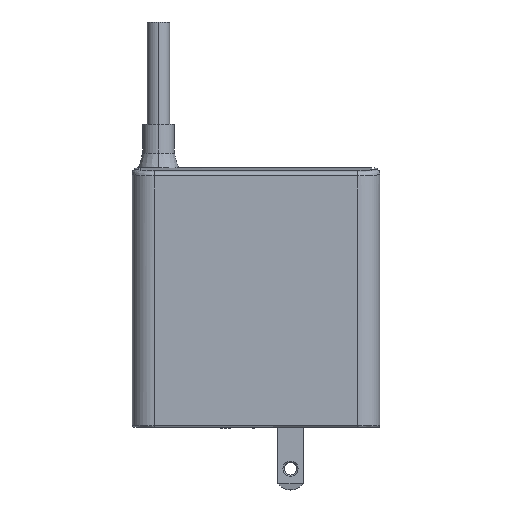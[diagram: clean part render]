
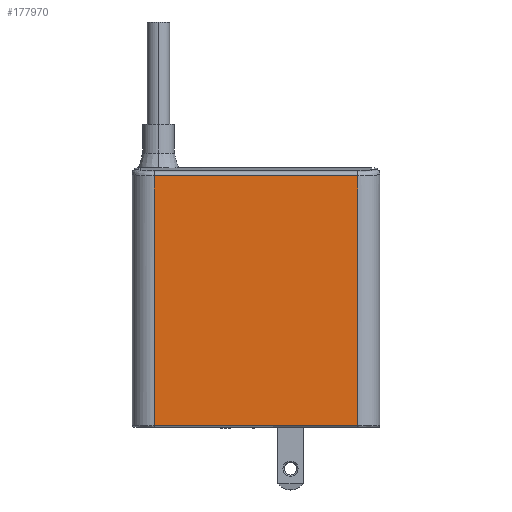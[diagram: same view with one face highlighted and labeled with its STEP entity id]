
A CAD part, top view. The second image highlights one B-rep face of the part: STEP entity #177970.
In plain terms, the highlighted planar face has unit normal (0, 0, 1).
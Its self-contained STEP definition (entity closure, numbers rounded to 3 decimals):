
#161120=CARTESIAN_POINT('',(-24.715,133.183,
21.101));
#161130=VERTEX_POINT('',#161120);
#167500=CARTESIAN_POINT('',(26.285,133.183,
21.101));
#167510=VERTEX_POINT('',#167500);
#167560=CARTESIAN_POINT('',(-36.415,133.183,
21.101));
#167570=DIRECTION('',(1.,0.,0.));
#167580=VECTOR('',#167570,1.);
#167590=LINE('',#167560,#167580);
#167600=EDGE_CURVE('',#161130,#167510,#167590,.T.);
#177670=CARTESIAN_POINT('',(0.785,114.,21.101));
#177680=DIRECTION('',(0.,0.,-1.));
#177690=DIRECTION('',(0.,1.,0.));
#177700=AXIS2_PLACEMENT_3D('',#177670,#177680,#177690);
#177710=PLANE('',#177700);
#177720=CARTESIAN_POINT('',(-24.715,114.,21.101));
#177730=DIRECTION('',(0.,-1.,0.));
#177740=VECTOR('',#177730,1.);
#177750=LINE('',#177720,#177740);
#177760=CARTESIAN_POINT('',(-24.715,70.55,21.101));
#177770=VERTEX_POINT('',#177760);
#177780=EDGE_CURVE('',#161130,#177770,#177750,.T.);
#177790=ORIENTED_EDGE('',*,*,#177780,.T.);
#177800=ORIENTED_EDGE('',*,*,#167600,.F.);
#177810=CARTESIAN_POINT('',(26.285,114.,21.101));
#177820=DIRECTION('',(0.,1.,0.));
#177830=VECTOR('',#177820,1.);
#177840=LINE('',#177810,#177830);
#177850=CARTESIAN_POINT('',(26.285,70.55,21.101));
#177860=VERTEX_POINT('',#177850);
#177870=EDGE_CURVE('',#177860,#167510,#177840,.T.);
#177880=ORIENTED_EDGE('',*,*,#177870,.T.);
#177890=CARTESIAN_POINT('',(0.785,70.55,21.101));
#177900=DIRECTION('',(1.,0.,0.));
#177910=VECTOR('',#177900,1.);
#177920=LINE('',#177890,#177910);
#177930=EDGE_CURVE('',#177770,#177860,#177920,.T.);
#177940=ORIENTED_EDGE('',*,*,#177930,.T.);
#177950=EDGE_LOOP('',(#177940,#177880,#177800,#177790));
#177960=FACE_OUTER_BOUND('',#177950,.T.);
#177970=ADVANCED_FACE('',(#177960),#177710,.F.);
